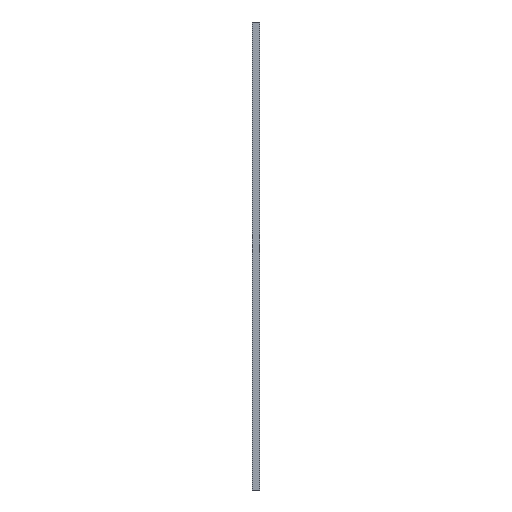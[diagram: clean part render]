
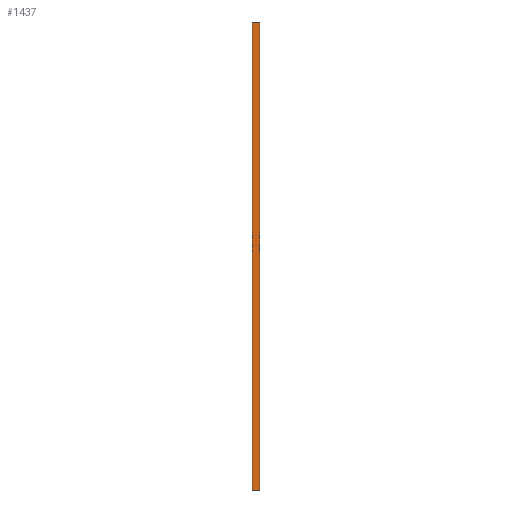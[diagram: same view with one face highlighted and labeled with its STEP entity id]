
A CAD part, left-side view. The second image highlights one B-rep face of the part: STEP entity #1437.
In plain terms, the highlighted planar face has unit normal (-1, 0, 0).
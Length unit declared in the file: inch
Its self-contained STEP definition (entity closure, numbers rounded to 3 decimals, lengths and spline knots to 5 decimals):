
#64 = EDGE_CURVE ( 'NONE', #2601, #2717, #2138, .T. ) ;
#99 = VECTOR ( 'NONE', #3443, 39.37008 ) ;
#288 = CARTESIAN_POINT ( 'NONE',  ( -8.22429, 0., -8.95643 ) ) ;
#375 = PLANE ( 'NONE',  #3600 ) ;
#432 = VECTOR ( 'NONE', #3586, 39.37008 ) ;
#696 = FACE_OUTER_BOUND ( 'NONE', #1764, .T. ) ;
#702 = CARTESIAN_POINT ( 'NONE',  ( -8.22429, 0.25, -8.95643 ) ) ;
#719 = ORIENTED_EDGE ( 'NONE', *, *, #64, .T. ) ;
#742 = VECTOR ( 'NONE', #3595, 39.37008 ) ;
#873 = EDGE_CURVE ( 'NONE', #2601, #3610, #1353, .T. ) ;
#917 = VECTOR ( 'NONE', #1031, 39.37008 ) ;
#941 = LINE ( 'NONE', #2435, #432 ) ;
#1031 = DIRECTION ( 'NONE',  ( 0., -1., 0. ) ) ;
#1170 = ORIENTED_EDGE ( 'NONE', *, *, #2453, .T. ) ;
#1220 = ORIENTED_EDGE ( 'NONE', *, *, #873, .F. ) ;
#1328 = CARTESIAN_POINT ( 'NONE',  ( -8.22429, 0.25, 7.04357 ) ) ;
#1353 = LINE ( 'NONE', #2789, #99 ) ;
#1437 = ADVANCED_FACE ( 'NONE', ( #696 ), #375, .F. ) ;
#1540 = DIRECTION ( 'NONE',  ( 0., 0., -1. ) ) ;
#1543 = VERTEX_POINT ( 'NONE', #1923 ) ;
#1764 = EDGE_LOOP ( 'NONE', ( #1220, #719, #1170, #3139 ) ) ;
#1923 = CARTESIAN_POINT ( 'NONE',  ( -8.22429, 0., 7.04357 ) ) ;
#2055 = CARTESIAN_POINT ( 'NONE',  ( -8.22429, 0.25, -8.95643 ) ) ;
#2138 = LINE ( 'NONE', #702, #917 ) ;
#2435 = CARTESIAN_POINT ( 'NONE',  ( -8.22429, 0., -8.95643 ) ) ;
#2453 = EDGE_CURVE ( 'NONE', #2717, #1543, #941, .T. ) ;
#2514 = CARTESIAN_POINT ( 'NONE',  ( -8.22429, 0.25, -8.95643 ) ) ;
#2601 = VERTEX_POINT ( 'NONE', #2514 ) ;
#2717 = VERTEX_POINT ( 'NONE', #288 ) ;
#2789 = CARTESIAN_POINT ( 'NONE',  ( -8.22429, 0.25, -8.95643 ) ) ;
#2853 = EDGE_CURVE ( 'NONE', #3610, #1543, #3048, .T. ) ;
#2887 = CARTESIAN_POINT ( 'NONE',  ( -8.22429, 0.25, 7.04357 ) ) ;
#3003 = DIRECTION ( 'NONE',  ( 1., 0., 0. ) ) ;
#3048 = LINE ( 'NONE', #1328, #742 ) ;
#3139 = ORIENTED_EDGE ( 'NONE', *, *, #2853, .F. ) ;
#3443 = DIRECTION ( 'NONE',  ( 0., 0., 1. ) ) ;
#3586 = DIRECTION ( 'NONE',  ( 0., 0., 1. ) ) ;
#3595 = DIRECTION ( 'NONE',  ( 0., -1., 0. ) ) ;
#3600 = AXIS2_PLACEMENT_3D ( 'NONE', #2055, #3003, #1540 ) ;
#3610 = VERTEX_POINT ( 'NONE', #2887 ) ;
